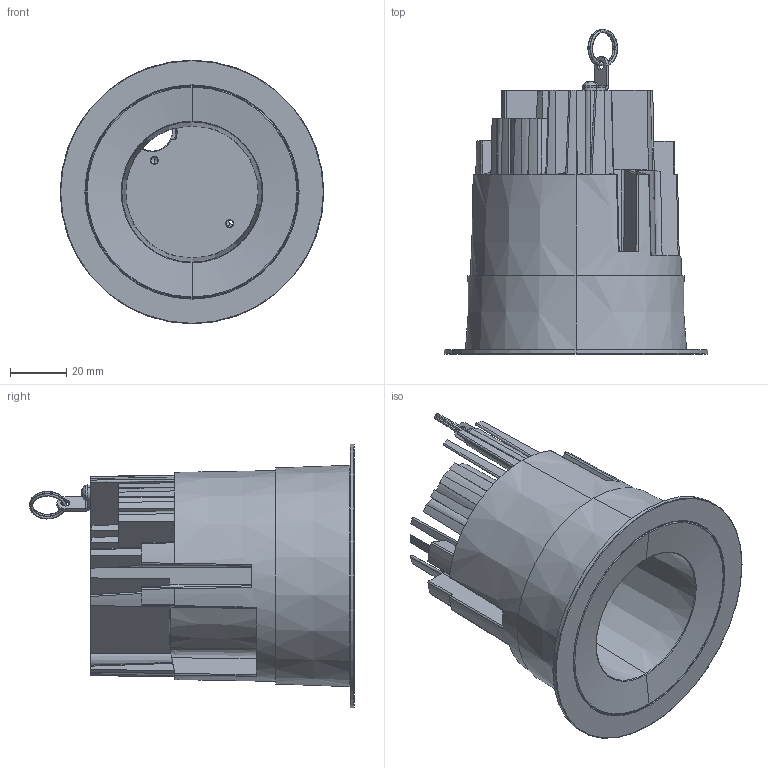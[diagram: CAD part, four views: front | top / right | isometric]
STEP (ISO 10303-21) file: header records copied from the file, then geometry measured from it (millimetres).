
FILE_DESCRIPTION (( 'STEP AP214' ), '1' );
FILE_NAME ('WG-H-PTD3-FA-RBT-RFPH.STEP', '2023-02-17T19:27:37', ( '' ), ( '' ), 'SwSTEP 2.0', 'SolidWorks 2021', '' );
FILE_SCHEMA (( 'AUTOMOTIVE_DESIGN' ));
Length unit declared in the file: inch
Products named in the file (7): 720-10034-300; 720-10059-304; WG-H-PTD3-FA-RBT-RFPH; 310-10082-200_310-10082-200; 100 ProTools heat sink aircraft wire loop 2019-09-26; GDL PLUS heat sink aircraft wire L-bracket; WG-IN-PTD3-RFPH-__-__WG-CV-PTD3-RFPH-OA-_
Assembly tree (6 placements, depth 3):
  WG-H-PTD3-FA-RBT-RFPH
    720-10034-300
    100 ProTools heat sink aircraft wire loop 2019-09-26
    GDL PLUS heat sink aircraft wire L-bracket
    310-10082-200_310-10082-200
    WG-IN-PTD3-RFPH-__-__WG-CV-PTD3-RFPH-OA-_
      720-10059-304
Bounding box: 94 x 115.69 x 94 mm (x, y, z)
Volume: 110231.9 mm3; surface area: 95868.5 mm2
Topology: 5 solids, 5 shells, 626 faces, 1699 edges, 1070 vertices
Faces by surface type: plane 184, cone 166, cylinder 103, bspline 93, torus 49, sphere 31
Entity records: 24312 total; most frequent: CARTESIAN_POINT 9123, ORIENTED_EDGE 3346, DIRECTION 2867, EDGE_CURVE 1673, AXIS2_PLACEMENT_3D 1184, VERTEX_POINT 1070, EDGE_LOOP 659, CIRCLE 641
